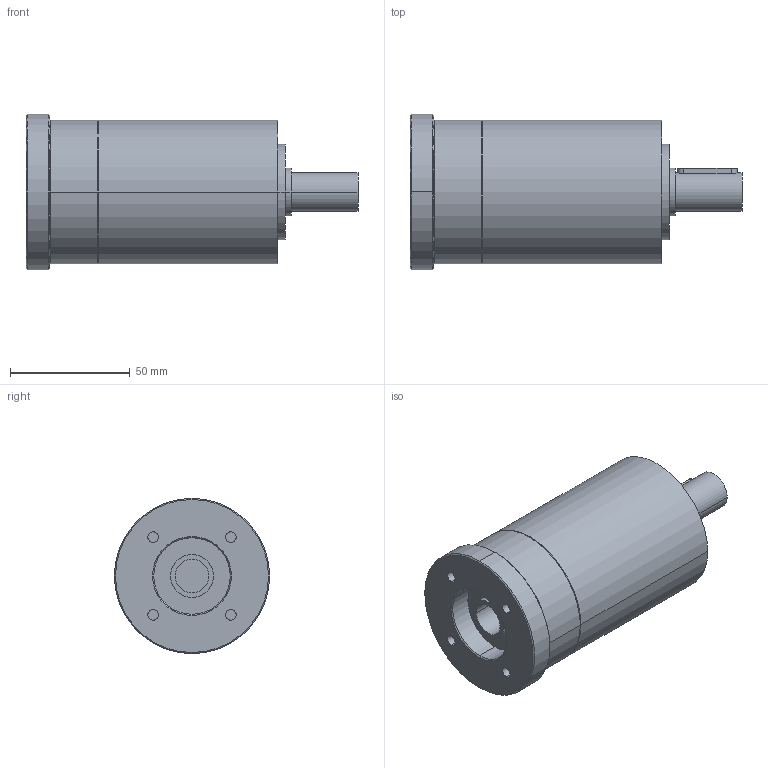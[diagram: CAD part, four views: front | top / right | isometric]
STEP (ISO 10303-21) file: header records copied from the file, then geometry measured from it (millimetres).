
FILE_DESCRIPTION(('CoCreate Modeling STEP Export'),'2;1');
FILE_NAME('GPR75_ig-9-12-16-20-24-30-36_16_B14_14_P12.stp','2014-08-25T16:45:15',(''),(''),'CoCreate Modeling STEP processor for AP214 (Solid Model)','CoCreate Modeling 16.00C 25-Feb-2009 (C) Parametric Technology GmbH','');
FILE_SCHEMA(('AUTOMOTIVE_DESIGN { 1 0 10303 214 1 1 1 1 }'));
Length unit declared in the file: millimetre
Products named in the file (2): GPR75_ig-9-12-16-20-24-30-36_16_B14_14_P12
Assembly tree (1 placements, depth 2):
  GPR75_ig-9-12-16-20-24-30-36_16_B14_14_P12
    GPR75_ig-9-12-16-20-24-30-36_16_B14_14_P12
Bounding box: 138.9 x 65 x 65 mm (x, y, z)
Volume: 300374.6 mm3; surface area: 32694 mm2
Topology: 1 solids, 1 shells, 73 faces, 189 edges, 133 vertices
Faces by surface type: cylinder 38, plane 21, cone 14
Entity records: 1871 total; most frequent: ORIENTED_EDGE 374, CARTESIAN_POINT 345, DIRECTION 238, EDGE_CURVE 187, VERTEX_POINT 133, AXIS2_PLACEMENT_3D 90, EDGE_LOOP 90, FACE_OUTER_BOUND 73
